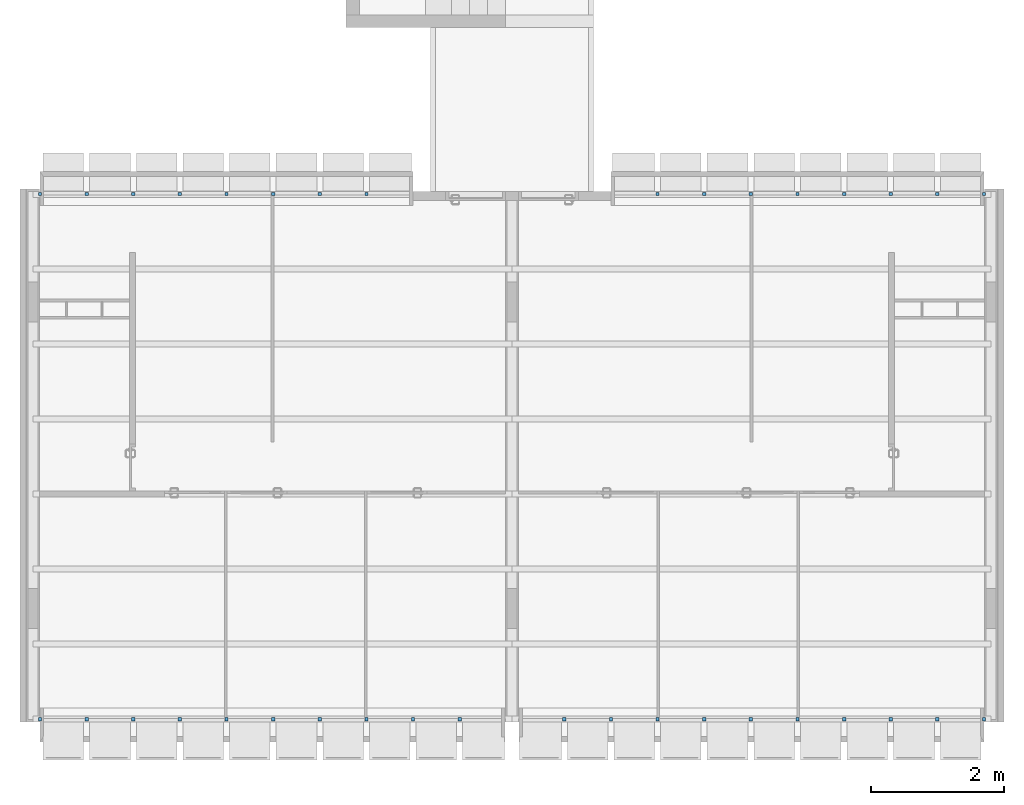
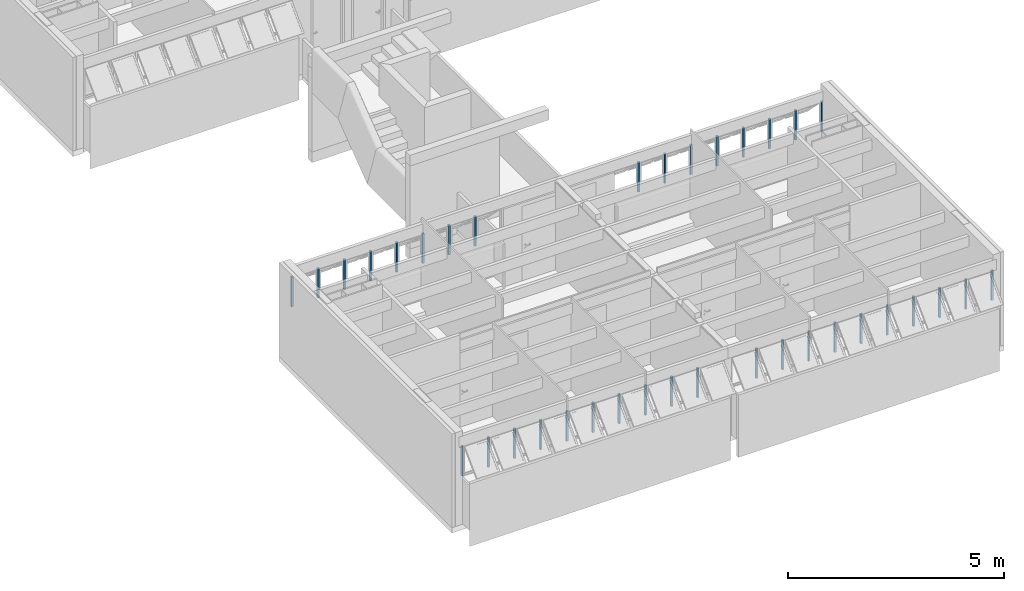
# One storey, part 2 of 40: 36 members, 4 elements without a shape of their own.
"""IFC4 building model written with IfcOpenShell, lengths in millimetres."""

from ifc_helpers import new_model, entity, si_unit, converted_unit, derived_unit, direction, frame, origin_with_axes, place, context, subcontext, project, spatial, line, indexed_curve, outline, extrude, material, type_object, element, aggregate, save


model = new_model("IFC4")

# Units and contexts
model_context = context("Model", 3, precision=0.01, world=origin_with_axes(), true_north=direction((0.0, 1.0)))
body_context = subcontext(model_context, "Body", "Model", "MODEL_VIEW")
ifc_project = project(units=[si_unit("LENGTHUNIT", "METRE", prefix="MILLI"), si_unit("AREAUNIT", "SQUARE_METRE"), si_unit("VOLUMEUNIT", "CUBIC_METRE"), converted_unit("PLANEANGLEUNIT", "DEGREE", entity("IfcPlaneAngleMeasure", 0.0174532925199), si_unit("PLANEANGLEUNIT", "RADIAN"), dimensions=[0, 0, 0, 0, 0, 0, 0]), converted_unit("TIMEUNIT", "Year", entity("IfcTimeMeasure", 31556926.0), si_unit("TIMEUNIT", "SECOND"), dimensions=[0, 0, 1, 0, 0, 0, 0]), si_unit("MASSUNIT", "GRAM", prefix="KILO"), si_unit("THERMODYNAMICTEMPERATUREUNIT", "DEGREE_CELSIUS"), si_unit("LUMINOUSINTENSITYUNIT", "LUMEN"), si_unit("ENERGYUNIT", "JOULE", prefix="MEGA"), derived_unit("THERMALCONDUCTANCEUNIT", [(si_unit("POWERUNIT", "WATT"), 1), (si_unit("LENGTHUNIT", "METRE"), -1), (si_unit("THERMODYNAMICTEMPERATUREUNIT", "KELVIN"), -1)]), derived_unit("SPECIFICHEATCAPACITYUNIT", [(si_unit("ENERGYUNIT", "JOULE"), 1), (si_unit("MASSUNIT", "GRAM", prefix="KILO"), -1), (si_unit("THERMODYNAMICTEMPERATUREUNIT", "KELVIN"), -1)]), derived_unit("MASSDENSITYUNIT", [(si_unit("MASSUNIT", "GRAM", prefix="KILO"), 1), (si_unit("VOLUMEUNIT", "CUBIC_METRE"), -1)])], contexts=[model_context])

# Site, building, storey
site_placement = place(None, origin_with_axes())
site = spatial("IfcSite", under=ifc_project, at=site_placement, Name="Local", CompositionType="ELEMENT")
building_placement = place(site_placement, origin_with_axes())
building = spatial("IfcBuilding", under=site, at=building_placement, Name="Construção", CompositionType="ELEMENT")
storey_placement = place(building_placement, origin_with_axes())
storey = spatial("IfcBuildingStorey", under=building, at=storey_placement, Name="Primeiro Pavimento", CompositionType="ELEMENT", Elevation=0.0)

# Window, members
window_type = type_object("IfcWindowType", Name="Tipo de Parede Cortina", PartitioningType="NOTDEFINED", PredefinedType="NOTDEFINED")
window_1_placement = place(storey_placement, frame((12020.0, 8250.0, 1355.00007107), z_axis=(0.0, 0.0, 1.0), x_axis=(1.0, 0.0, 0.0)))
window_1 = element("IfcWindow", 1, at=window_1_placement, inside=storey, type_object=window_type, Name="APTO2-JANELA-000", PredefinedType="NOTDEFINED")
ifc_material = material(Name="Alumínio")
member_type = type_object("IfcMemberType", Name="Montante 50 x 50", PredefinedType="MULLION")
member_1_placement = place(window_1_placement, frame((-1050.0, 0.0, 0.0), z_axis=(0.0, 0.0, 1.0), x_axis=(1.0, 0.0, 0.0)))
member_1 = element("IfcMember", 2, at=member_1_placement, type_object=member_type, material=ifc_material, Name="APTO2-PC-Est-Mnt-430", PredefinedType="MULLION", context=body_context, shape_type="SweptSolid", body=[
    extrude(outline(indexed_curve([(25.0, -50.0), (25.0, 0.0), (-25.0, 0.0), (-25.0, -50.0)], segments=[line(1, 2, 3, 4, 1)])), origin_with_axes(), (0.0, 0.0, 1.0), 844.999891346),
])
member_2_placement = place(window_1_placement, frame((-1750.0, 0.0, 0.0), z_axis=(0.0, 0.0, 1.0), x_axis=(1.0, 0.0, 0.0)))
member_2 = element("IfcMember", 3, at=member_2_placement, type_object=member_type, material=ifc_material, Name="APTO2-PC-Est-Mnt-485", PredefinedType="MULLION", context=body_context, shape_type="SweptSolid", body=[
    extrude(outline(indexed_curve([(25.0, -50.0), (25.0, 0.0), (-25.0, 0.0), (-25.0, -50.0)], segments=[line(1, 2, 3, 4, 1)])), origin_with_axes(), (0.0, 0.0, 1.0), 844.999891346),
])
member_3_placement = place(window_1_placement, frame((-2450.0, 0.0, 0.0), z_axis=(0.0, 0.0, 1.0), x_axis=(1.0, 0.0, 0.0)))
member_3 = element("IfcMember", 4, at=member_3_placement, type_object=member_type, material=ifc_material, Name="APTO2-PC-Est-Mnt-486", PredefinedType="MULLION", context=body_context, shape_type="SweptSolid", body=[
    extrude(outline(indexed_curve([(25.0, -50.0), (25.0, 0.0), (-25.0, 0.0), (-25.0, -50.0)], segments=[line(1, 2, 3, 4, 1)])), origin_with_axes(), (0.0, 0.0, 1.0), 844.999891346),
])
member_4_placement = place(window_1_placement, frame((350.0, 0.0, 0.0), z_axis=(0.0, 0.0, 1.0), x_axis=(1.0, 0.0, 0.0)))
member_4 = element("IfcMember", 5, at=member_4_placement, type_object=member_type, material=ifc_material, Name="APTO2-PC-Est-Mnt-428", PredefinedType="MULLION", context=body_context, shape_type="SweptSolid", body=[
    extrude(outline(indexed_curve([(25.0, -50.0), (25.0, 0.0), (-25.0, 0.0), (-25.0, -50.0)], segments=[line(1, 2, 3, 4, 1)])), origin_with_axes(), (0.0, 0.0, 1.0), 844.999891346),
])
member_5_placement = place(window_1_placement, frame((2450.0, 0.0, 0.0), z_axis=(0.0, 0.0, 1.0), x_axis=(1.0, 0.0, 0.0)))
member_5 = element("IfcMember", 6, at=member_5_placement, type_object=member_type, material=ifc_material, Name="APTO2-PC-Est-Mnt-560", PredefinedType="MULLION", context=body_context, shape_type="SweptSolid", body=[
    extrude(outline(indexed_curve([(25.0, -50.0), (25.0, 0.0), (-25.0, 0.0), (-25.0, -50.0)], segments=[line(1, 2, 3, 4, 1)])), origin_with_axes(), (0.0, 0.0, 1.0), 844.999891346),
])
member_6_placement = place(window_1_placement, frame((-350.0, 0.0, 0.0), z_axis=(0.0, 0.0, 1.0), x_axis=(1.0, 0.0, 0.0)))
member_6 = element("IfcMember", 7, at=member_6_placement, type_object=member_type, material=ifc_material, Name="APTO2-PC-Est-Mnt-429", PredefinedType="MULLION", context=body_context, shape_type="SweptSolid", body=[
    extrude(outline(indexed_curve([(25.0, -50.0), (25.0, 0.0), (-25.0, 0.0), (-25.0, -50.0)], segments=[line(1, 2, 3, 4, 1)])), origin_with_axes(), (0.0, 0.0, 1.0), 844.999891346),
])
member_7_placement = place(window_1_placement, frame((1050.0, 0.0, 0.0), z_axis=(0.0, 0.0, 1.0), x_axis=(1.0, 0.0, 0.0)))
member_7 = element("IfcMember", 8, at=member_7_placement, type_object=member_type, material=ifc_material, Name="APTO2-PC-Est-Mnt-427", PredefinedType="MULLION", context=body_context, shape_type="SweptSolid", body=[
    extrude(outline(indexed_curve([(25.0, -50.0), (25.0, 0.0), (-25.0, 0.0), (-25.0, -50.0)], segments=[line(1, 2, 3, 4, 1)])), origin_with_axes(), (0.0, 0.0, 1.0), 844.999891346),
])
member_8_placement = place(window_1_placement, frame((1750.0, 0.0, 0.0), z_axis=(0.0, 0.0, 1.0), x_axis=(1.0, 0.0, 0.0)))
member_8 = element("IfcMember", 9, at=member_8_placement, type_object=member_type, material=ifc_material, Name="APTO2-PC-Est-Mnt-426", PredefinedType="MULLION", context=body_context, shape_type="SweptSolid", body=[
    extrude(outline(indexed_curve([(25.0, -50.0), (25.0, 0.0), (-25.0, 0.0), (-25.0, -50.0)], segments=[line(1, 2, 3, 4, 1)])), origin_with_axes(), (0.0, 0.0, 1.0), 844.999891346),
])
aggregate(window_1, [member_1, member_2, member_3, member_4, member_5, member_6, member_7, member_8])

window_2_placement = place(storey_placement, frame((8520.0, 315.020977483, 1355.02054151), z_axis=(0.0, 0.0, 1.0), x_axis=(1.0, 0.0, 0.0)))
window_2 = element("IfcWindow", 10, at=window_2_placement, inside=storey, type_object=window_type, Name="APTO2-JANELA-001", PredefinedType="NOTDEFINED")
member_9_placement = place(window_2_placement, frame((2450.0, 0.0, 0.0), z_axis=(0.0, 0.0, 1.0), x_axis=(1.0, 0.0, 0.0)))
member_9 = element("IfcMember", 11, at=member_9_placement, type_object=member_type, material=ifc_material, Name="APTO2-PC-Est-Mnt-430", PredefinedType="MULLION", context=body_context, shape_type="SweptSolid", body=[
    extrude(outline(indexed_curve([(25.0, 50.0), (-25.0, 50.0), (-25.0, 0.0), (25.0, 0.0)], segments=[line(1, 2, 3, 4, 1)])), origin_with_axes(), (0.0, 0.0, 1.0), 844.999928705),
])
member_10_placement = place(window_2_placement, frame((1750.0, 0.0, 0.0), z_axis=(0.0, 0.0, 1.0), x_axis=(1.0, 0.0, 0.0)))
member_10 = element("IfcMember", 12, at=member_10_placement, type_object=member_type, material=ifc_material, Name="APTO2-PC-Est-Mnt-485", PredefinedType="MULLION", context=body_context, shape_type="SweptSolid", body=[
    extrude(outline(indexed_curve([(25.0, 50.0), (-25.0, 50.0), (-25.0, 0.0), (25.0, 0.0)], segments=[line(1, 2, 3, 4, 1)])), origin_with_axes(), (0.0, 0.0, 1.0), 844.999928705),
])
member_11_placement = place(window_2_placement, frame((1050.0, 0.0, 0.0), z_axis=(0.0, 0.0, 1.0), x_axis=(1.0, 0.0, 0.0)))
member_11 = element("IfcMember", 13, at=member_11_placement, type_object=member_type, material=ifc_material, Name="APTO2-PC-Est-Mnt-486", PredefinedType="MULLION", context=body_context, shape_type="SweptSolid", body=[
    extrude(outline(indexed_curve([(25.0, 50.0), (-25.0, 50.0), (-25.0, 0.0), (25.0, 0.0)], segments=[line(1, 2, 3, 4, 1)])), origin_with_axes(), (0.0, 0.0, 1.0), 844.999928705),
])
member_12_placement = place(window_2_placement, frame((3850.0, 0.0, 0.0), z_axis=(0.0, 0.0, 1.0), x_axis=(1.0, 0.0, 0.0)))
member_12 = element("IfcMember", 14, at=member_12_placement, type_object=member_type, material=ifc_material, Name="APTO2-PC-Est-Mnt-428", PredefinedType="MULLION", context=body_context, shape_type="SweptSolid", body=[
    extrude(outline(indexed_curve([(25.0, 50.0), (-25.0, 50.0), (-25.0, 0.0), (25.0, 0.0)], segments=[line(1, 2, 3, 4, 1)])), origin_with_axes(), (0.0, 0.0, 1.0), 844.999928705),
])
member_13_placement = place(window_2_placement, frame((350.0, 0.0, 0.0), z_axis=(0.0, 0.0, 1.0), x_axis=(1.0, 0.0, 0.0)))
member_13 = element("IfcMember", 15, at=member_13_placement, type_object=member_type, material=ifc_material, Name="APTO2-PC-Est-Mnt-487", PredefinedType="MULLION", context=body_context, shape_type="SweptSolid", body=[
    extrude(outline(indexed_curve([(25.0, 50.0), (-25.0, 50.0), (-25.0, 0.0), (25.0, 0.0)], segments=[line(1, 2, 3, 4, 1)])), origin_with_axes(), (0.0, 0.0, 1.0), 844.999928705),
])
member_14_placement = place(window_2_placement, frame((-350.0, 0.0, 0.0), z_axis=(0.0, 0.0, 1.0), x_axis=(1.0, 0.0, 0.0)))
member_14 = element("IfcMember", 16, at=member_14_placement, type_object=member_type, material=ifc_material, Name="APTO2-PC-Est-Mnt-488", PredefinedType="MULLION", context=body_context, shape_type="SweptSolid", body=[
    extrude(outline(indexed_curve([(25.0, 50.0), (-25.0, 50.0), (-25.0, 0.0), (25.0, 0.0)], segments=[line(1, 2, 3, 4, 1)])), origin_with_axes(), (0.0, 0.0, 1.0), 844.999928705),
])
member_15_placement = place(window_2_placement, frame((5950.0, 0.0, 0.0), z_axis=(0.0, 0.0, 1.0), x_axis=(1.0, 0.0, 0.0)))
member_15 = element("IfcMember", 17, at=member_15_placement, type_object=member_type, material=ifc_material, Name="APTO2-PC-Est-Mnt-522", PredefinedType="MULLION", context=body_context, shape_type="SweptSolid", body=[
    extrude(outline(indexed_curve([(25.0, 50.0), (-25.0, 50.0), (-25.0, 0.0), (25.0, 0.0)], segments=[line(1, 2, 3, 4, 1)])), origin_with_axes(), (0.0, 0.0, 1.0), 844.999928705),
])
member_16_placement = place(window_2_placement, frame((3150.0, 0.0, 0.0), z_axis=(0.0, 0.0, 1.0), x_axis=(1.0, 0.0, 0.0)))
member_16 = element("IfcMember", 18, at=member_16_placement, type_object=member_type, material=ifc_material, Name="APTO2-PC-Est-Mnt-429", PredefinedType="MULLION", context=body_context, shape_type="SweptSolid", body=[
    extrude(outline(indexed_curve([(25.0, 50.0), (-25.0, 50.0), (-25.0, 0.0), (25.0, 0.0)], segments=[line(1, 2, 3, 4, 1)])), origin_with_axes(), (0.0, 0.0, 1.0), 844.999928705),
])
member_17_placement = place(window_2_placement, frame((4550.0, 0.0, 0.0), z_axis=(0.0, 0.0, 1.0), x_axis=(1.0, 0.0, 0.0)))
member_17 = element("IfcMember", 19, at=member_17_placement, type_object=member_type, material=ifc_material, Name="APTO2-PC-Est-Mnt-427", PredefinedType="MULLION", context=body_context, shape_type="SweptSolid", body=[
    extrude(outline(indexed_curve([(25.0, 50.0), (-25.0, 50.0), (-25.0, 0.0), (25.0, 0.0)], segments=[line(1, 2, 3, 4, 1)])), origin_with_axes(), (0.0, 0.0, 1.0), 844.999928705),
])
member_18_placement = place(window_2_placement, frame((5250.0, 0.0, 0.0), z_axis=(0.0, 0.0, 1.0), x_axis=(1.0, 0.0, 0.0)))
member_18 = element("IfcMember", 20, at=member_18_placement, type_object=member_type, material=ifc_material, Name="APTO2-PC-Est-Mnt-426", PredefinedType="MULLION", context=body_context, shape_type="SweptSolid", body=[
    extrude(outline(indexed_curve([(25.0, 50.0), (-25.0, 50.0), (-25.0, 0.0), (25.0, 0.0)], segments=[line(1, 2, 3, 4, 1)])), origin_with_axes(), (0.0, 0.0, 1.0), 844.999928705),
])
aggregate(window_2, [member_9, member_10, member_11, member_12, member_13, member_14, member_15, member_16, member_17, member_18])

window_3_placement = place(storey_placement, frame((294.999984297, 315.020977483, 1355.02054151), z_axis=(0.0, 0.0, 1.0), x_axis=(1.0, 0.0, 0.0)))
window_3 = element("IfcWindow", 21, at=window_3_placement, inside=storey, type_object=window_type, Name="APTO1-JANELA-001", PredefinedType="NOTDEFINED")
member_19_placement = place(window_3_placement, frame((705.000015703, 0.0, 0.0), z_axis=(0.0, 0.0, 1.0), x_axis=(-1.0, 0.0, 0.0)))
member_19 = element("IfcMember", 22, at=member_19_placement, type_object=member_type, material=ifc_material, Name="APTO1-PC-Est-Mnt-426", PredefinedType="MULLION", context=body_context, shape_type="SweptSolid", body=[
    extrude(outline(indexed_curve([(-25.0, 50.0), (-25.0, 0.0), (25.0, 0.0), (25.0, 50.0)], segments=[line(1, 2, 3, 4, 1)])), frame((0.0, 0.0, 0.0), z_axis=(0.0, 0.0, 1.0), x_axis=(-1.0, 0.0, 0.0)), (0.0, 0.0, 1.0), 844.999891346),
])
member_20_placement = place(window_3_placement, frame((1405.0000157, 0.0, 0.0), z_axis=(0.0, 0.0, 1.0), x_axis=(-1.0, 0.0, 0.0)))
member_20 = element("IfcMember", 23, at=member_20_placement, type_object=member_type, material=ifc_material, Name="APTO1-PC-Est-Mnt-427", PredefinedType="MULLION", context=body_context, shape_type="SweptSolid", body=[
    extrude(outline(indexed_curve([(-25.0, 50.0), (-25.0, 0.0), (25.0, 0.0), (25.0, 50.0)], segments=[line(1, 2, 3, 4, 1)])), frame((0.0, 0.0, 0.0), z_axis=(0.0, 0.0, 1.0), x_axis=(-1.0, 0.0, 0.0)), (0.0, 0.0, 1.0), 844.999891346),
])
member_21_placement = place(window_3_placement, frame((2805.0000157, 0.0, 0.0), z_axis=(0.0, 0.0, 1.0), x_axis=(-1.0, 0.0, 0.0)))
member_21 = element("IfcMember", 24, at=member_21_placement, type_object=member_type, material=ifc_material, Name="APTO1-PC-Est-Mnt-429", PredefinedType="MULLION", context=body_context, shape_type="SweptSolid", body=[
    extrude(outline(indexed_curve([(-25.0, 50.0), (-25.0, 0.0), (25.0, 0.0), (25.0, 50.0)], segments=[line(1, 2, 3, 4, 1)])), frame((0.0, 0.0, 0.0), z_axis=(0.0, 0.0, 1.0), x_axis=(-1.0, 0.0, 0.0)), (0.0, 0.0, 1.0), 844.999891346),
])
member_22_placement = place(window_3_placement, frame((5.00001570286, 0.0, 0.0), z_axis=(0.0, 0.0, 1.0), x_axis=(-1.0, 0.0, 0.0)))
member_22 = element("IfcMember", 25, at=member_22_placement, type_object=member_type, material=ifc_material, Name="APTO1-PC-Est-Mnt-522", PredefinedType="MULLION", context=body_context, shape_type="SweptSolid", body=[
    extrude(outline(indexed_curve([(-25.0, 50.0), (-25.0, 0.0), (25.0, 0.0), (25.0, 50.0)], segments=[line(1, 2, 3, 4, 1)])), frame((0.0, 0.0, 0.0), z_axis=(0.0, 0.0, 1.0), x_axis=(-1.0, 0.0, 0.0)), (0.0, 0.0, 1.0), 844.999891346),
])
member_23_placement = place(window_3_placement, frame((6305.0000157, 0.0, 0.0), z_axis=(0.0, 0.0, 1.0), x_axis=(-1.0, 0.0, 0.0)))
member_23 = element("IfcMember", 26, at=member_23_placement, type_object=member_type, material=ifc_material, Name="APTO1-PC-Est-Mnt-488", PredefinedType="MULLION", context=body_context, shape_type="SweptSolid", body=[
    extrude(outline(indexed_curve([(-25.0, 50.0), (-25.0, 0.0), (25.0, 0.0), (25.0, 50.0)], segments=[line(1, 2, 3, 4, 1)])), frame((0.0, 0.0, 0.0), z_axis=(0.0, 0.0, 1.0), x_axis=(-1.0, 0.0, 0.0)), (0.0, 0.0, 1.0), 844.999891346),
])
member_24_placement = place(window_3_placement, frame((5605.0000157, 0.0, 0.0), z_axis=(0.0, 0.0, 1.0), x_axis=(-1.0, 0.0, 0.0)))
member_24 = element("IfcMember", 27, at=member_24_placement, type_object=member_type, material=ifc_material, Name="APTO1-PC-Est-Mnt-487", PredefinedType="MULLION", context=body_context, shape_type="SweptSolid", body=[
    extrude(outline(indexed_curve([(-25.0, 50.0), (-25.0, 0.0), (25.0, 0.0), (25.0, 50.0)], segments=[line(1, 2, 3, 4, 1)])), frame((0.0, 0.0, 0.0), z_axis=(0.0, 0.0, 1.0), x_axis=(-1.0, 0.0, 0.0)), (0.0, 0.0, 1.0), 844.999891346),
])
member_25_placement = place(window_3_placement, frame((2105.0000157, 0.0, 0.0), z_axis=(0.0, 0.0, 1.0), x_axis=(-1.0, 0.0, 0.0)))
member_25 = element("IfcMember", 28, at=member_25_placement, type_object=member_type, material=ifc_material, Name="APTO1-PC-Est-Mnt-428", PredefinedType="MULLION", context=body_context, shape_type="SweptSolid", body=[
    extrude(outline(indexed_curve([(-25.0, 50.0), (-25.0, 0.0), (25.0, 0.0), (25.0, 50.0)], segments=[line(1, 2, 3, 4, 1)])), frame((0.0, 0.0, 0.0), z_axis=(0.0, 0.0, 1.0), x_axis=(-1.0, 0.0, 0.0)), (0.0, 0.0, 1.0), 844.999891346),
])
member_26_placement = place(window_3_placement, frame((4905.0000157, 0.0, 0.0), z_axis=(0.0, 0.0, 1.0), x_axis=(-1.0, 0.0, 0.0)))
member_26 = element("IfcMember", 29, at=member_26_placement, type_object=member_type, material=ifc_material, Name="APTO1-PC-Est-Mnt-486", PredefinedType="MULLION", context=body_context, shape_type="SweptSolid", body=[
    extrude(outline(indexed_curve([(-25.0, 50.0), (-25.0, 0.0), (25.0, 0.0), (25.0, 50.0)], segments=[line(1, 2, 3, 4, 1)])), frame((0.0, 0.0, 0.0), z_axis=(0.0, 0.0, 1.0), x_axis=(-1.0, 0.0, 0.0)), (0.0, 0.0, 1.0), 844.999891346),
])
member_27_placement = place(window_3_placement, frame((4205.0000157, 0.0, 0.0), z_axis=(0.0, 0.0, 1.0), x_axis=(-1.0, 0.0, 0.0)))
member_27 = element("IfcMember", 30, at=member_27_placement, type_object=member_type, material=ifc_material, Name="APTO1-PC-Est-Mnt-485", PredefinedType="MULLION", context=body_context, shape_type="SweptSolid", body=[
    extrude(outline(indexed_curve([(-25.0, 50.0), (-25.0, 0.0), (25.0, 0.0), (25.0, 50.0)], segments=[line(1, 2, 3, 4, 1)])), frame((0.0, 0.0, 0.0), z_axis=(0.0, 0.0, 1.0), x_axis=(-1.0, 0.0, 0.0)), (0.0, 0.0, 1.0), 844.999891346),
])
member_28_placement = place(window_3_placement, frame((3505.0000157, 0.0, 0.0), z_axis=(0.0, 0.0, 1.0), x_axis=(-1.0, 0.0, 0.0)))
member_28 = element("IfcMember", 31, at=member_28_placement, type_object=member_type, material=ifc_material, Name="APTO1-PC-Est-Mnt-430", PredefinedType="MULLION", context=body_context, shape_type="SweptSolid", body=[
    extrude(outline(indexed_curve([(-25.0, 50.0), (-25.0, 0.0), (25.0, 0.0), (25.0, 50.0)], segments=[line(1, 2, 3, 4, 1)])), frame((0.0, 0.0, 0.0), z_axis=(0.0, 0.0, 1.0), x_axis=(-1.0, 0.0, 0.0)), (0.0, 0.0, 1.0), 844.999891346),
])
aggregate(window_3, [member_19, member_20, member_21, member_22, member_23, member_24, member_25, member_26, member_27, member_28])

window_4_placement = place(storey_placement, frame((294.99998404, 8250.0, 1355.00007107), z_axis=(0.0, 0.0, 1.0), x_axis=(1.0, 0.0, 0.0)))
window_4 = element("IfcWindow", 32, at=window_4_placement, inside=storey, type_object=window_type, Name="APTO1-JANELA-000", PredefinedType="NOTDEFINED")
member_29_placement = place(window_4_placement, frame((705.00001596, 0.0, 0.0), z_axis=(0.0, 0.0, 1.0), x_axis=(-1.0, 0.0, 0.0)))
member_29 = element("IfcMember", 33, at=member_29_placement, type_object=member_type, material=ifc_material, Name="APTO1-PC-Est-Mnt-426", PredefinedType="MULLION", context=body_context, shape_type="SweptSolid", body=[
    extrude(outline(indexed_curve([(-25.0, -50.0), (25.0, -50.0), (25.0, 0.0), (-25.0, 0.0)], segments=[line(1, 2, 3, 4, 1)])), frame((0.0, 0.0, 0.0), z_axis=(0.0, 0.0, 1.0), x_axis=(-1.0, 0.0, 0.0)), (0.0, 0.0, 1.0), 844.999928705),
])
member_30_placement = place(window_4_placement, frame((1405.00001596, 0.0, 0.0), z_axis=(0.0, 0.0, 1.0), x_axis=(-1.0, 0.0, 0.0)))
member_30 = element("IfcMember", 34, at=member_30_placement, type_object=member_type, material=ifc_material, Name="APTO1-PC-Est-Mnt-427", PredefinedType="MULLION", context=body_context, shape_type="SweptSolid", body=[
    extrude(outline(indexed_curve([(-25.0, -50.0), (25.0, -50.0), (25.0, 0.0), (-25.0, 0.0)], segments=[line(1, 2, 3, 4, 1)])), frame((0.0, 0.0, 0.0), z_axis=(0.0, 0.0, 1.0), x_axis=(-1.0, 0.0, 0.0)), (0.0, 0.0, 1.0), 844.999928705),
])
member_31_placement = place(window_4_placement, frame((2805.00001596, 0.0, 0.0), z_axis=(0.0, 0.0, 1.0), x_axis=(-1.0, 0.0, 0.0)))
member_31 = element("IfcMember", 35, at=member_31_placement, type_object=member_type, material=ifc_material, Name="APTO1-PC-Est-Mnt-429", PredefinedType="MULLION", context=body_context, shape_type="SweptSolid", body=[
    extrude(outline(indexed_curve([(-25.0, -50.0), (25.0, -50.0), (25.0, 0.0), (-25.0, 0.0)], segments=[line(1, 2, 3, 4, 1)])), frame((0.0, 0.0, 0.0), z_axis=(0.0, 0.0, 1.0), x_axis=(-1.0, 0.0, 0.0)), (0.0, 0.0, 1.0), 844.999928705),
])
member_32_placement = place(window_4_placement, frame((5.00001595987, 0.0, 0.0), z_axis=(0.0, 0.0, 1.0), x_axis=(-1.0, 0.0, 0.0)))
member_32 = element("IfcMember", 36, at=member_32_placement, type_object=member_type, material=ifc_material, Name="APTO1-PC-Est-Mnt-560", PredefinedType="MULLION", context=body_context, shape_type="SweptSolid", body=[
    extrude(outline(indexed_curve([(-25.0, -50.0), (25.0, -50.0), (25.0, 0.0), (-25.0, 0.0)], segments=[line(1, 2, 3, 4, 1)])), frame((0.0, 0.0, 0.0), z_axis=(0.0, 0.0, 1.0), x_axis=(-1.0, 0.0, 0.0)), (0.0, 0.0, 1.0), 844.999928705),
])
member_33_placement = place(window_4_placement, frame((2105.00001596, 0.0, 0.0), z_axis=(0.0, 0.0, 1.0), x_axis=(-1.0, 0.0, 0.0)))
member_33 = element("IfcMember", 37, at=member_33_placement, type_object=member_type, material=ifc_material, Name="APTO1-PC-Est-Mnt-428", PredefinedType="MULLION", context=body_context, shape_type="SweptSolid", body=[
    extrude(outline(indexed_curve([(-25.0, -50.0), (25.0, -50.0), (25.0, 0.0), (-25.0, 0.0)], segments=[line(1, 2, 3, 4, 1)])), frame((0.0, 0.0, 0.0), z_axis=(0.0, 0.0, 1.0), x_axis=(-1.0, 0.0, 0.0)), (0.0, 0.0, 1.0), 844.999928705),
])
member_34_placement = place(window_4_placement, frame((4905.00001596, 0.0, 0.0), z_axis=(0.0, 0.0, 1.0), x_axis=(-1.0, 0.0, 0.0)))
member_34 = element("IfcMember", 38, at=member_34_placement, type_object=member_type, material=ifc_material, Name="APTO1-PC-Est-Mnt-486", PredefinedType="MULLION", context=body_context, shape_type="SweptSolid", body=[
    extrude(outline(indexed_curve([(-25.0, -50.0), (25.0, -50.0), (25.0, 0.0), (-25.0, 0.0)], segments=[line(1, 2, 3, 4, 1)])), frame((0.0, 0.0, 0.0), z_axis=(0.0, 0.0, 1.0), x_axis=(-1.0, 0.0, 0.0)), (0.0, 0.0, 1.0), 844.999928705),
])
member_35_placement = place(window_4_placement, frame((4205.00001596, 0.0, 0.0), z_axis=(0.0, 0.0, 1.0), x_axis=(-1.0, 0.0, 0.0)))
member_35 = element("IfcMember", 39, at=member_35_placement, type_object=member_type, material=ifc_material, Name="APTO1-PC-Est-Mnt-485", PredefinedType="MULLION", context=body_context, shape_type="SweptSolid", body=[
    extrude(outline(indexed_curve([(-25.0, -50.0), (25.0, -50.0), (25.0, 0.0), (-25.0, 0.0)], segments=[line(1, 2, 3, 4, 1)])), frame((0.0, 0.0, 0.0), z_axis=(0.0, 0.0, 1.0), x_axis=(-1.0, 0.0, 0.0)), (0.0, 0.0, 1.0), 844.999928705),
])
member_36_placement = place(window_4_placement, frame((3505.00001596, 0.0, 0.0), z_axis=(0.0, 0.0, 1.0), x_axis=(-1.0, 0.0, 0.0)))
member_36 = element("IfcMember", 40, at=member_36_placement, type_object=member_type, material=ifc_material, Name="APTO1-PC-Est-Mnt-430", PredefinedType="MULLION", context=body_context, shape_type="SweptSolid", body=[
    extrude(outline(indexed_curve([(-25.0, -50.0), (25.0, -50.0), (25.0, 0.0), (-25.0, 0.0)], segments=[line(1, 2, 3, 4, 1)])), frame((0.0, 0.0, 0.0), z_axis=(0.0, 0.0, 1.0), x_axis=(-1.0, 0.0, 0.0)), (0.0, 0.0, 1.0), 844.999928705),
])
aggregate(window_4, [member_29, member_30, member_31, member_32, member_33, member_34, member_35, member_36])

save(model, "model.ifc")
